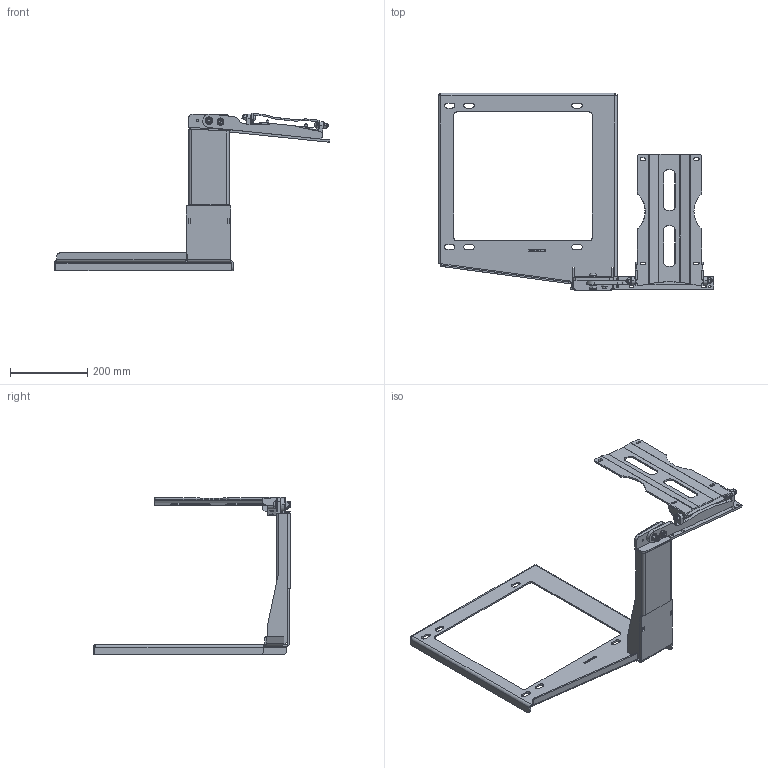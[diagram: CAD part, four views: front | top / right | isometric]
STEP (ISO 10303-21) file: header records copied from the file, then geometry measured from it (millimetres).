
FILE_DESCRIPTION(('STEP AP214'),'1');
FILE_NAME('81TAB279030A_TABLETTE DROITE RANG 4.stp','2026-02-04T10:00:13',(' '),(' '),'Spatial InterOp 3D',' ',' ');
FILE_SCHEMA(('AUTOMOTIVE_DESIGN { 1 0 10303 214 1 1 1 1 }'));
Length unit declared in the file: millimetre
Products named in the file (31): 81TAB279031A_CHASSIS TAB DR RANG 4; 81TAB001015A_BUTEE; 81TAB001014B_RENFORT D'AXE; 81TAB279303D_MONTANT INTERIEUR TAB. DR rang 4; 81TAB279302C_MONTANT EXTERIEUR TAB. DR rang 4; 81TAB279301C_BASE CHASSIS TAB.DR RANG 4; 81TAB279030A_TABLETTE DROITE RANG 4; 81TAB001024A_PIVOT ACCOUDOIRE DR; 81TAB001204A_PIVOT TABLETTE; 81TAB001203B_CORPS; 81TAB001202A_PLAQUE SUPPERIEURE; 81TAB001020A_ACCOUDOIR TABLETTE DR; Rondelle Plate Inox; Vis BHC Acier ISO7380; Ecrou H Autofreiné Acier  ISO 7040; 81TAB001033A_OSS. TABLETTE RABATTABLE; 81TAB001303C_CORPS OSSATURE; 81TAB001304B_ARTICULATION OSSATURE; 81TAB001030A_TABLETTE RABATTABLE DROITE; 81TAB001032A_BUTEE; Ecrou Noyé Tef FHO Inox; 81TAB001302C_TOLE BUTEE; Vis H Embase Acier Zingué ISO 4161; Vis Poussoir à Bille Orientable Sans Tête Avec Fente NORELEM 03000-212; Ecrou Hm Acier Zingué ISO 4035
Assembly tree (40 placements, depth 4):
  81TAB001014B_RENFORT D'AXE
  81TAB279030A_TABLETTE DROITE RANG 4
    81TAB279031A_CHASSIS TAB DR RANG 4
      81TAB001015A_BUTEE
      81TAB279303D_MONTANT INTERIEUR TAB. DR rang 4
      81TAB279302C_MONTANT EXTERIEUR TAB. DR rang 4
      81TAB279301C_BASE CHASSIS TAB.DR RANG 4
    81TAB001020A_ACCOUDOIR TABLETTE DR
      81TAB001024A_PIVOT ACCOUDOIRE DR
        81TAB001024A_PIVOT ACCOUDOIRE DR
        81TAB001204A_PIVOT TABLETTE  x2
        81TAB001203B_CORPS
        81TAB001202A_PLAQUE SUPPERIEURE
    Rondelle Plate Inox  x2
    Vis BHC Acier ISO7380
    Ecrou H Autofreiné Acier  ISO 7040
    81TAB001030A_TABLETTE RABATTABLE DROITE
      81TAB001033A_OSS. TABLETTE RABATTABLE
        81TAB001303C_CORPS OSSATURE
        81TAB001304B_ARTICULATION OSSATURE
      81TAB001032A_BUTEE
        Ecrou Noyé Tef FHO Inox  x2
        81TAB001302C_TOLE BUTEE
      Vis H Embase Acier Zingué ISO 4161  x2
    Rondelle Plate Inox  x6
    Vis BHC Acier ISO7380  x2
    Ecrou H Autofreiné Acier  ISO 7040  x2
    Vis Poussoir à Bille Orientable Sans Tête Avec Fente NORELEM 03000-212
      Vis Poussoir à Bille Orientable Sans Tête Avec Fente NORELEM 03000-212
      Vis Poussoir à Bille Orientable Sans Tête Avec Fente NORELEM 03000-212
    Ecrou Hm Acier Zingué ISO 4035
Bounding box: 714.06 x 513 x 407.7 mm (x, y, z)
Volume: 1393444.6 mm3; surface area: 713976.6 mm2
Topology: 34 solids, 34 shells, 960 faces, 2662 edges, 1797 vertices
Faces by surface type: plane 606, cylinder 201, cone 74, bspline 53, torus 25, sphere 1
Full cylindrical faces by diameter (mm): 4.2 x2, 5 x2, 5.5 x4, 6 x4, 6.8 x2, 7 x2, 8 x2, 8.2 x4, 8.5 x1, 8.6 x6, 8.9 x2, 10 x3, 10.2 x3, 10.8 x2, 11 x1, 11.2 x2, 12 x1, 13 x2, 16 x7, 20 x2
Entity records: 37834 total; most frequent: CARTESIAN_POINT 7348, ORIENTED_EDGE 4422, DIRECTION 4018, EDGE_CURVE 2211, VERTEX_POINT 1564, LINE 1480, VECTOR 1480, AXIS2_PLACEMENT_3D 1269
